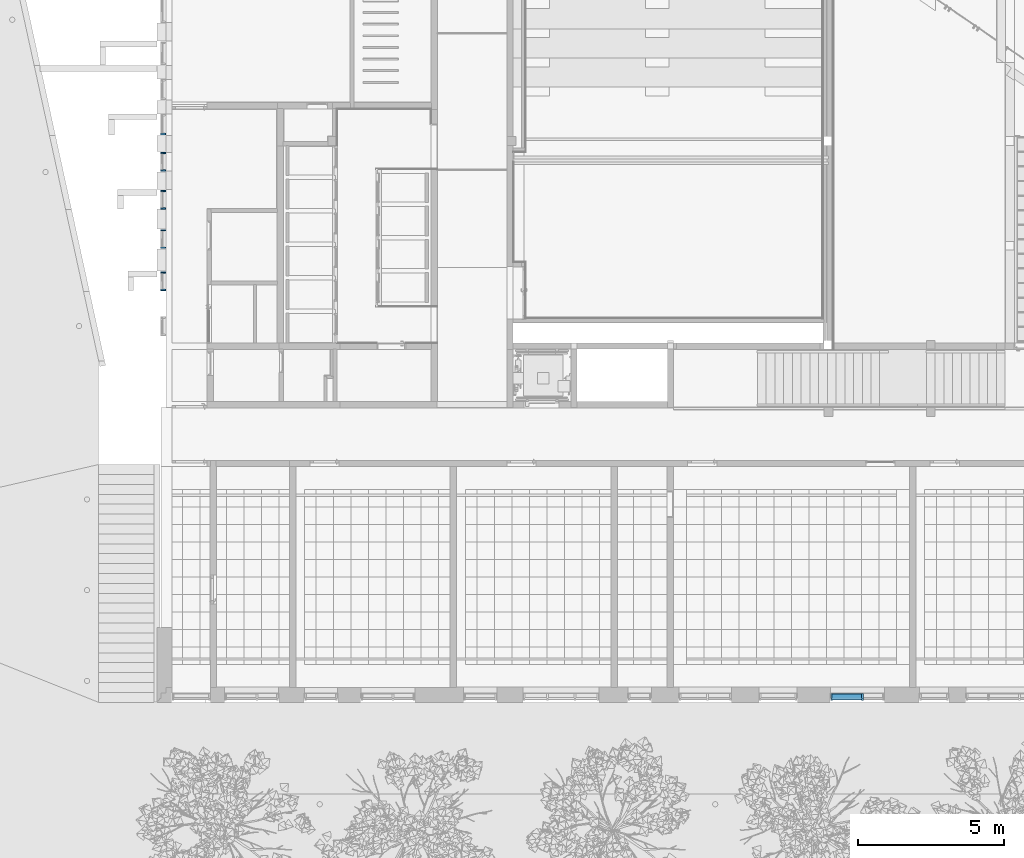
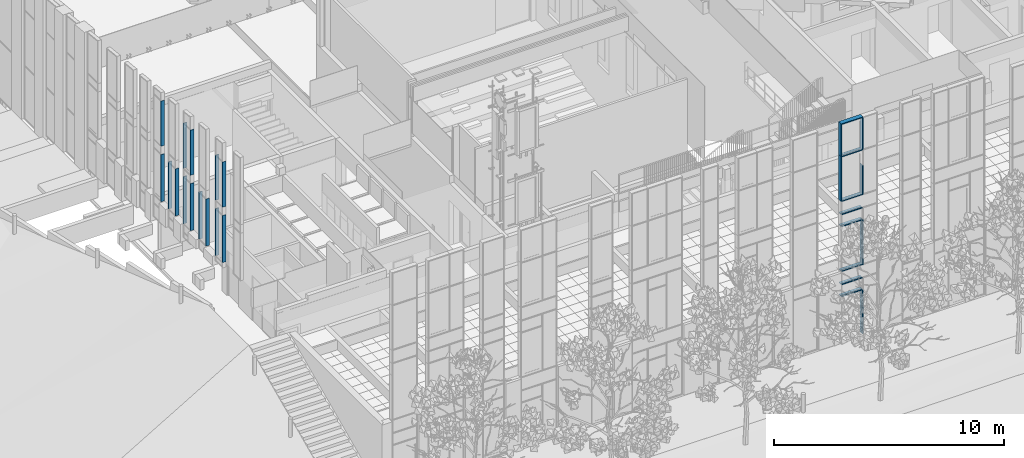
# One storey, part 5 of 246: 28 members, 6 elements without a shape of their own.
"""IFC2X3 building model written with IfcOpenShell, lengths in millimetres."""

from ifc_helpers import new_model, entity, si_unit, converted_unit, derived_unit, money_unit, direction, frame, origin_with_axes, place, context, subcontext, project, spatial, faceted_brep, source, transform, mapped, material, type_object, element, aggregate, save


model = new_model("IFC2X3")

# Units and contexts
model_context = context("Model", 3, precision=0.01, world=origin_with_axes(), true_north=direction((0.0, 1.0)))
body_context = subcontext(model_context, "Body", "Model", "MODEL_VIEW")
ifc_project = project(units=[si_unit("LENGTHUNIT", "METRE", prefix="MILLI"), si_unit("AREAUNIT", "SQUARE_METRE"), si_unit("VOLUMEUNIT", "CUBIC_METRE"), converted_unit("PLANEANGLEUNIT", "DEGREE", entity("IfcPlaneAngleMeasure", 0.0174532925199), si_unit("PLANEANGLEUNIT", "RADIAN"), dimensions=[0, 0, 0, 0, 0, 0, 0]), si_unit("SOLIDANGLEUNIT", "STERADIAN"), money_unit("EUR"), converted_unit("TIMEUNIT", "Year", entity("IfcTimeMeasure", 31556926.0), si_unit("TIMEUNIT", "SECOND"), dimensions=[0, 0, 1, 0, 0, 0, 0]), si_unit("MASSUNIT", "GRAM", prefix="KILO"), si_unit("THERMODYNAMICTEMPERATUREUNIT", "DEGREE_CELSIUS"), si_unit("LUMINOUSINTENSITYUNIT", "LUMEN"), si_unit("ENERGYUNIT", "JOULE", prefix="MEGA"), derived_unit("THERMALCONDUCTANCEUNIT", [(si_unit("POWERUNIT", "WATT"), 1), (si_unit("LENGTHUNIT", "METRE"), -1), (si_unit("THERMODYNAMICTEMPERATUREUNIT", "KELVIN"), -1)]), derived_unit("SPECIFICHEATCAPACITYUNIT", [(si_unit("ENERGYUNIT", "JOULE"), 1), (si_unit("MASSUNIT", "GRAM", prefix="KILO"), -1), (si_unit("THERMODYNAMICTEMPERATUREUNIT", "KELVIN"), -1)]), derived_unit("MASSDENSITYUNIT", [(si_unit("MASSUNIT", "GRAM", prefix="KILO"), 1), (si_unit("VOLUMEUNIT", "CUBIC_METRE"), -1)])], contexts=[model_context])

# Site, building, storey
site_placement = place(None, origin_with_axes())
site = spatial("IfcSite", under=ifc_project, at=site_placement, Name="L.Koidula tn 11b", CompositionType="ELEMENT")
building_placement = place(site_placement, origin_with_axes())
building = spatial("IfcBuilding", under=site, at=building_placement, Name="Rakvere Riigigümnaasium", CompositionType="ELEMENT")
storey_placement = place(building_placement, origin_with_axes())
storey = spatial("IfcBuildingStorey", under=building, at=storey_placement, Name="1.korrus 0,00", CompositionType="ELEMENT", Elevation=0.0)

# Curtain wall, members
curtain_wall_type = type_object("IfcCurtainWallType", Name="Curtain Wall Type", PredefinedType="NOTDEFINED")
curtain_wall_1_placement = place(storey_placement, frame((59064.0000846, 5111.45334637, -8.09717250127e-06), z_axis=(0.0, 0.0, 1.0), x_axis=(1.0, 0.0, 0.0)))
curtain_wall_1 = element("IfcCurtainWall", 1, at=curtain_wall_1_placement, inside=storey, type_object=curtain_wall_type, Name="KLF-05-2A")
ifc_material = material(Name="Alumiiniumprofiil (RAL 7021)")
member_type_1 = type_object("IfcMemberType", Name="Boundary Frame 50 x 222", PredefinedType="MULLION")
shared_shape_1 = source(origin_with_axes(), body_context, "Body", "Brep", [
    faceted_brep([(-37.0, -32.5, 2375.0), (-50.0, -32.5, 2375.0), (-50.0, -169.0, 2375.0), (0.0, -169.0, 2375.0), (0.0, 53.0, 2375.0), (-50.0, 53.0, 2375.0), (-50.0, 32.5, 2375.0), (-37.0, 32.5, 2375.0), (-37.0, -32.5, 0.0), (-50.0, -32.5, 0.0), (-50.0, -169.0, 0.0), (0.0, -169.0, 0.0), (0.0, 53.0, 0.0), (-50.0, 53.0, 0.0), (-50.0, 32.5, 0.0), (-37.0, 32.5, 0.0)], [[[0, 1, 2, 3, 4, 5, 6, 7]], [[0, 8, 9, 1]], [[9, 10, 2, 1]], [[10, 11, 3, 2]], [[11, 12, 4, 3]], [[12, 13, 5, 4]], [[6, 5, 13, 14]], [[14, 15, 7, 6]], [[7, 15, 8, 0]], [[8, 15, 14, 13, 12, 11, 10, 9]]]),
])
member_1_placement = place(curtain_wall_1_placement, frame((-954.000087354, 0.0, 7465.0), z_axis=(0.0, 0.0, 1.0), x_axis=(-1.0, 0.0, 0.0)))
member_1 = element("IfcMember", 2, at=member_1_placement, type_object=member_type_1, material=ifc_material, Name="KLF-05-3A-Profiilid", ObjectType="MULLION", context=body_context, shape_type="MappedRepresentation", body=[
    mapped(shared_shape_1, transform((0.0, 0.0, 0.0))),
])
member_type_2 = type_object("IfcMemberType", Name="50 x 208", PredefinedType="MULLION")
shared_shape_2 = source(origin_with_axes(), body_context, "Body", "Brep", [
    faceted_brep([(-12.0, -27.0, 1050.00011426), (-25.0, -27.0, 1050.00011426), (-25.0, -160.0, 1050.00011426), (25.0, -160.0, 1050.00011426), (25.0, -27.0, 1050.00011426), (12.0, -27.0, 1050.00011426), (12.0, 27.0, 1050.00011426), (25.0, 27.0, 1050.00011426), (25.0, 48.0, 1050.00011426), (-25.0, 48.0, 1050.00011426), (-25.0, 27.0, 1050.00011426), (-12.0, 27.0, 1050.00011426), (-12.0, -27.0, 0.0), (-25.0, -27.0, 0.0), (-25.0, -160.0, 0.0), (25.0, -160.0, 0.0), (25.0, -27.0, 0.0), (12.0, -27.0, 0.0), (12.0, 27.0, 0.0), (25.0, 27.0, 0.0), (25.0, 48.0, 0.0), (-25.0, 48.0, 0.0), (-25.0, 27.0, 0.0), (-12.0, 27.0, 0.0)], [[[0, 1, 2, 3, 4, 5, 6, 7, 8, 9, 10, 11]], [[1, 0, 12, 13]], [[1, 13, 14, 2]], [[3, 2, 14, 15]], [[4, 3, 15, 16]], [[4, 16, 17, 5]], [[5, 17, 18, 6]], [[7, 6, 18, 19]], [[19, 20, 8, 7]], [[9, 8, 20, 21]], [[22, 10, 9, 21]], [[11, 10, 22, 23]], [[0, 11, 23, 12]], [[23, 22, 21, 20, 19, 18, 17, 16, 15, 14, 13, 12]]]),
])
member_2_placement = place(curtain_wall_1_placement, frame((-934.000201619, 0.0, 2400.0), z_axis=(1.0, 0.0, 0.0), x_axis=(0.0, 0.0, 1.0)))
member_2 = element("IfcMember", 3, at=member_2_placement, type_object=member_type_2, material=ifc_material, Name="KLF-40", ObjectType="MULLION", context=body_context, shape_type="MappedRepresentation", body=[
    mapped(shared_shape_2, transform((0.0, 0.0, 0.0))),
])
member_3_placement = place(curtain_wall_1_placement, frame((-934.000201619, 0.0, 3040.0), z_axis=(1.0, 0.0, 0.0), x_axis=(0.0, 0.0, 1.0)))
member_3 = element("IfcMember", 4, at=member_3_placement, type_object=member_type_2, material=ifc_material, Name="KLF-82", ObjectType="MULLION", context=body_context, shape_type="MappedRepresentation", body=[
    mapped(shared_shape_2, transform((0.0, 0.0, 0.0))),
])
member_4_placement = place(curtain_wall_1_placement, frame((-934.000201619, 0.0, 3745.0), z_axis=(1.0, 0.0, 0.0), x_axis=(0.0, 0.0, 1.0)))
member_4 = element("IfcMember", 5, at=member_4_placement, type_object=member_type_2, material=ifc_material, Name="KLF-84", ObjectType="MULLION", context=body_context, shape_type="MappedRepresentation", body=[
    mapped(shared_shape_2, transform((0.0, 0.0, 0.0))),
])
member_5_placement = place(curtain_wall_1_placement, frame((-934.000201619, 0.0, 6120.0), z_axis=(1.0, 0.0, 0.0), x_axis=(0.0, 0.0, 1.0)))
member_5 = element("IfcMember", 6, at=member_5_placement, type_object=member_type_2, material=ifc_material, Name="KLF-15", ObjectType="MULLION", context=body_context, shape_type="MappedRepresentation", body=[
    mapped(shared_shape_2, transform((0.0, 0.0, 0.0))),
])
member_6_placement = place(curtain_wall_1_placement, frame((-934.000201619, 0.0, 6760.0), z_axis=(1.0, 0.0, 0.0), x_axis=(0.0, 0.0, 1.0)))
member_6 = element("IfcMember", 7, at=member_6_placement, type_object=member_type_2, material=ifc_material, Name="KLF-17", ObjectType="MULLION", context=body_context, shape_type="MappedRepresentation", body=[
    mapped(shared_shape_2, transform((0.0, 0.0, 0.0))),
])
member_7_placement = place(curtain_wall_1_placement, frame((-934.000201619, 0.0, 7465.0), z_axis=(1.0, 0.0, 0.0), x_axis=(0.0, 0.0, 1.0)))
member_7 = element("IfcMember", 8, at=member_7_placement, type_object=member_type_2, material=ifc_material, Name="KLF-50", ObjectType="MULLION", context=body_context, shape_type="MappedRepresentation", body=[
    mapped(shared_shape_2, transform((0.0, 0.0, 0.0))),
])
member_type_3 = type_object("IfcMemberType", Name="Mullion Frame 50 x 222", PredefinedType="MULLION")
shared_shape_3 = source(origin_with_axes(), body_context, "Body", "Brep", [
    faceted_brep([(-12.0, -32.5, 1699.99983191), (-25.0, -32.5, 1699.99983191), (-25.0, -169.0, 1699.99983191), (25.0, -169.0, 1699.99983191), (25.0, -32.5, 1699.99983191), (12.0, -32.5, 1699.99983191), (12.0, 32.5, 1699.99983191), (25.0, 32.5, 1699.99983191), (25.0, 53.0, 1699.99983191), (-25.0, 53.0, 1699.99983191), (-25.0, 32.5, 1699.99983191), (-12.0, 32.5, 1699.99983191), (-12.0, -32.5, 0.0), (-25.0, -32.5, 0.0), (-25.0, -169.0, 0.0), (25.0, -169.0, 0.0), (25.0, -32.5, 0.0), (12.0, -32.5, 0.0), (12.0, 32.5, 0.0), (25.0, 32.5, 0.0), (25.0, 53.0, 0.0), (-25.0, 53.0, 0.0), (-25.0, 32.5, 0.0), (-12.0, 32.5, 0.0)], [[[0, 1, 2, 3, 4, 5, 6, 7, 8, 9, 10, 11]], [[1, 0, 12, 13]], [[1, 13, 14, 2]], [[3, 2, 14, 15]], [[4, 3, 15, 16]], [[4, 16, 17, 5]], [[5, 17, 18, 6]], [[7, 6, 18, 19]], [[19, 20, 8, 7]], [[9, 8, 20, 21]], [[22, 10, 9, 21]], [[11, 10, 22, 23]], [[0, 11, 23, 12]], [[23, 22, 21, 20, 19, 18, 17, 16, 15, 14, 13, 12]]]),
])
member_8_placement = place(curtain_wall_1_placement, frame((140.999912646, 0.0, 9840.0), z_axis=(0.0, 0.0, 1.0), x_axis=(-1.0, 0.0, 0.0)))
member_8 = element("IfcMember", 9, at=member_8_placement, type_object=member_type_3, material=ifc_material, Name="KLF-05-2A-Profiilid", ObjectType="MULLION", context=body_context, shape_type="MappedRepresentation", body=[
    mapped(shared_shape_3, transform((0.0, 0.0, 0.0))),
])

curtain_wall_2_placement = place(storey_placement, frame((35156.0871538, 22235.4555038, 3003.0), z_axis=(0.0, 0.0, 1.0), x_axis=(1.0, 0.0, 0.0)))
curtain_wall_2 = element("IfcCurtainWall", 10, at=curtain_wall_2_placement, inside=storey, type_object=curtain_wall_type, Name="KLF-04-07")
member_type_4 = type_object("IfcMemberType", Name="Boundary Frame 50 x 170", PredefinedType="MULLION")
shared_shape_4 = source(origin_with_axes(), body_context, "Body", "Brep", [
    faceted_brep([(37.0, -26.0, 2500.00000122), (37.0, 26.0, 2500.00000122), (50.0, 26.0, 2500.00000122), (50.0, 46.0, 2500.00000122), (0.0, 46.0, 2500.00000122), (0.0, -124.0, 2500.00000122), (50.0, -124.0, 2500.00000122), (50.0, -26.0, 2500.00000122), (37.0, -26.0, 0.0), (37.0, 26.0, 0.0), (50.0, 26.0, 0.0), (50.0, 46.0, 0.0), (0.0, 46.0, 0.0), (0.0, -124.0, 0.0), (50.0, -124.0, 0.0), (50.0, -26.0, 0.0)], [[[0, 1, 2, 3, 4, 5, 6, 7]], [[1, 0, 8, 9]], [[10, 2, 1, 9]], [[2, 10, 11, 3]], [[12, 4, 3, 11]], [[13, 5, 4, 12]], [[14, 6, 5, 13]], [[15, 7, 6, 14]], [[0, 7, 15, 8]], [[8, 15, 14, 13, 12, 11, 10, 9]]]),
])
member_9_placement = place(curtain_wall_2_placement, frame((0.0, 324.999942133, 3242.00007113), z_axis=(0.0, 4.1864745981e-08, -1.0), x_axis=(0.0, -1.0, -4.1864745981e-08)))
member_9 = element("IfcMember", 11, at=member_9_placement, type_object=member_type_4, material=ifc_material, Name="KLF-04-35-Profiilid", ObjectType="MULLION", context=body_context, shape_type="MappedRepresentation", body=[
    mapped(shared_shape_4, transform((0.0, 0.0, 0.0))),
])
member_10_placement = place(curtain_wall_2_placement, frame((0.0, -325.000024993, 742.00007113), z_axis=(0.0, 0.0, 1.0), x_axis=(0.0, 1.0, 0.0)))
member_10 = element("IfcMember", 12, at=member_10_placement, type_object=member_type_4, material=ifc_material, Name="KLF-04-27-Profiilid", ObjectType="MULLION", context=body_context, shape_type="MappedRepresentation", body=[
    mapped(shared_shape_4, transform((0.0, 0.0, 0.0))),
])

curtain_wall_3_placement = place(storey_placement, frame((35156.0871538, 20885.4555022, 3234.99992887), z_axis=(0.0, 0.0, 1.0), x_axis=(1.0, 0.0, 0.0)))
curtain_wall_3 = element("IfcCurtainWall", 13, at=curtain_wall_3_placement, inside=storey, type_object=curtain_wall_type, Name="KLF-04-08")
member_11_placement = place(curtain_wall_3_placement, frame((0.0, 324.999978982, 3010.00007113), z_axis=(0.0, 0.0, -1.0), x_axis=(0.0, -1.0, 0.0)))
member_11 = element("IfcMember", 14, at=member_11_placement, type_object=member_type_4, material=ifc_material, Name="KLF-04-58-Profiilid", ObjectType="MULLION", context=body_context, shape_type="MappedRepresentation", body=[
    mapped(shared_shape_4, transform((0.0, 0.0, 0.0))),
])
member_12_placement = place(curtain_wall_3_placement, frame((0.0, -325.000001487, 510.00007113), z_axis=(0.0, 0.0, 1.0), x_axis=(0.0, 1.0, 0.0)))
member_12 = element("IfcMember", 15, at=member_12_placement, type_object=member_type_4, material=ifc_material, Name="KLF-04-52-Profiilid", ObjectType="MULLION", context=body_context, shape_type="MappedRepresentation", body=[
    mapped(shared_shape_4, transform((0.0, 0.0, 0.0))),
])
aggregate(curtain_wall_3, [member_11, member_12])

curtain_wall_4_placement = place(storey_placement, frame((35156.0871538, 19435.4554934, 3468.0), z_axis=(0.0, 0.0, 1.0), x_axis=(1.0, 0.0, 0.0)))
curtain_wall_4 = element("IfcCurtainWall", 16, at=curtain_wall_4_placement, inside=storey, type_object=curtain_wall_type, Name="KLF-04-09")
member_13_placement = place(curtain_wall_4_placement, frame((0.0, 325.0000746, 2777.00007113), z_axis=(0.0, 0.0, -1.0), x_axis=(0.0, -1.0, 0.0)))
member_13 = element("IfcMember", 17, at=member_13_placement, type_object=member_type_4, material=ifc_material, Name="KLF-04-08-Profiilid", ObjectType="MULLION", context=body_context, shape_type="MappedRepresentation", body=[
    mapped(shared_shape_4, transform((0.0, 0.0, 0.0))),
])
member_14_placement = place(curtain_wall_4_placement, frame((0.0, -325.000027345, 277.00007113), z_axis=(0.0, 0.0, 1.0), x_axis=(0.0, 1.0, 0.0)))
member_14 = element("IfcMember", 18, at=member_14_placement, type_object=member_type_4, material=ifc_material, Name="KLF-04-00-Profiilid", ObjectType="MULLION", context=body_context, shape_type="MappedRepresentation", body=[
    mapped(shared_shape_4, transform((0.0, 0.0, 0.0))),
])

# Curtain wall, member
curtain_wall_5_placement = place(storey_placement, frame((35156.0871538, 24810.4554726, 2540.0), z_axis=(0.0, 0.0, 1.0), x_axis=(1.0, 0.0, 0.0)))
curtain_wall_5 = element("IfcCurtainWall", 19, at=curtain_wall_5_placement, inside=storey, type_object=curtain_wall_type, Name="KLF-04-05")
member_15_placement = place(curtain_wall_5_placement, frame((0.0, -350.000000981, 1205.00005204), z_axis=(0.0, 0.0, 1.0), x_axis=(0.0, 1.0, 0.0)))
member_15 = element("IfcMember", 20, at=member_15_placement, type_object=member_type_4, material=ifc_material, Name="KLF-04-52-Profiilid", ObjectType="MULLION", context=body_context, shape_type="MappedRepresentation", body=[
    mapped(shared_shape_4, transform((0.0, 0.0, 0.0))),
])

# Curtain wall, members
curtain_wall_6_placement = place(storey_placement, frame((35156.0871538, 23535.4555553, 2770.0), z_axis=(0.0, 0.0, 1.0), x_axis=(1.0, 0.0, 0.0)))
curtain_wall_6 = element("IfcCurtainWall", 21, at=curtain_wall_6_placement, inside=storey, type_object=curtain_wall_type, Name="KLF-04-06")
member_16_placement = place(curtain_wall_6_placement, frame((0.0, 324.999949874, 3475.00005204), z_axis=(0.0, 0.0, -1.0), x_axis=(0.0, -1.0, 0.0)))
member_16 = element("IfcMember", 22, at=member_16_placement, type_object=member_type_4, material=ifc_material, Name="KLF-04-53-Profiilid", ObjectType="MULLION", context=body_context, shape_type="MappedRepresentation", body=[
    mapped(shared_shape_4, transform((0.0, 0.0, 0.0))),
])
member_17_placement = place(curtain_wall_6_placement, frame((0.0, -324.999949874, 975.00005204), z_axis=(0.0, 0.0, 1.0), x_axis=(0.0, 1.0, 0.0)))
member_17 = element("IfcMember", 23, at=member_17_placement, type_object=member_type_4, material=ifc_material, Name="KLF-04-47-Profiilid", ObjectType="MULLION", context=body_context, shape_type="MappedRepresentation", body=[
    mapped(shared_shape_4, transform((0.0, 0.0, 0.0))),
])
aggregate(curtain_wall_6, [member_16, member_17])

# Member
shared_shape_5 = source(origin_with_axes(), body_context, "Body", "Brep", [
    faceted_brep([(-37.0, -32.5, 1712.99983191), (-50.0, -32.5, 1699.99983191), (-50.0, -169.0, 1699.99983191), (0.0, -169.0, 1749.99983191), (0.0, 53.0, 1749.99983191), (-50.0, 53.0, 1699.99983191), (-50.0, 32.5, 1699.99983191), (-37.0, 32.5, 1712.99983191), (-37.0, -32.5, 0.0), (-50.0, -32.5, 0.0), (-50.0, -169.0, 0.0), (0.0, -169.0, 0.0), (0.0, 53.0, 0.0), (-50.0, 53.0, 0.0), (-50.0, 32.5, 0.0), (-37.0, 32.5, 0.0)], [[[0, 1, 2, 3, 4, 5, 6, 7]], [[0, 8, 9, 1]], [[9, 10, 2, 1]], [[10, 11, 3, 2]], [[11, 12, 4, 3]], [[12, 13, 5, 4]], [[6, 5, 13, 14]], [[14, 15, 7, 6]], [[7, 15, 8, 0]], [[8, 15, 14, 13, 12, 11, 10, 9]]]),
])
member_18_placement = place(curtain_wall_1_placement, frame((-954.000087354, 0.0, 9840.0), z_axis=(0.0, 0.0, 1.0), x_axis=(-1.0, 0.0, 0.0)))
member_18 = element("IfcMember", 24, at=member_18_placement, type_object=member_type_1, material=ifc_material, Name="KLF-05-2A-Profiilid", ObjectType="MULLION", context=body_context, shape_type="MappedRepresentation", body=[
    mapped(shared_shape_5, transform((0.0, 0.0, 0.0))),
])

shared_shape_6 = source(origin_with_axes(), body_context, "Body", "Brep", [
    faceted_brep([(-12.0, -27.0, 2400.00026018), (-25.0, -27.0, 2400.00026018), (-25.0, -160.0, 2400.00026018), (25.0, -160.0, 2400.00026018), (25.0, -27.0, 2400.00026018), (12.0, -27.0, 2400.00026018), (12.0, 27.0, 2400.00026018), (25.0, 27.0, 2400.00026018), (25.0, 48.0, 2400.00026018), (-25.0, 48.0, 2400.00026018), (-25.0, 27.0, 2400.00026018), (-12.0, 27.0, 2400.00026018), (-12.0, -27.0, 50.0), (-25.0, -27.0, 50.0), (-25.0, -160.0, 50.0), (25.0, -160.0, 50.0), (25.0, -27.0, 50.0), (12.0, -27.0, 50.0), (12.0, 27.0, 50.0), (25.0, 27.0, 50.0), (25.0, 48.0, 50.0), (-25.0, 48.0, 50.0), (-25.0, 27.0, 50.0), (-12.0, 27.0, 50.0)], [[[0, 1, 2, 3, 4, 5, 6, 7, 8, 9, 10, 11]], [[1, 0, 12, 13]], [[1, 13, 14, 2]], [[2, 14, 15, 3]], [[4, 3, 15, 16]], [[4, 16, 17, 5]], [[5, 17, 18, 6]], [[7, 6, 18, 19]], [[19, 20, 8, 7]], [[8, 20, 21, 9]], [[22, 10, 9, 21]], [[11, 10, 22, 23]], [[0, 11, 23, 12]], [[23, 22, 21, 20, 19, 18, 17, 16, 15, 14, 13, 12]]]),
])
member_19_placement = place(curtain_wall_1_placement, frame((140.999912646, 0.0, 0.0), z_axis=(0.0, 0.0, 1.0), x_axis=(-1.0, 0.0, 0.0)))
member_19 = element("IfcMember", 25, at=member_19_placement, type_object=member_type_2, material=ifc_material, Name="KLF-24", ObjectType="MULLION", context=body_context, shape_type="MappedRepresentation", body=[
    mapped(shared_shape_6, transform((0.0, 0.0, 0.0))),
])

shared_shape_7 = source(origin_with_axes(), body_context, "Body", "Brep", [
    faceted_brep([(37.0, -26.0, 2400.0), (37.0, 26.0, 2400.0), (50.0, 26.0, 2400.0), (50.0, 46.0, 2400.0), (0.0, 46.0, 2400.0), (0.0, -124.0, 2400.0), (50.0, -124.0, 2400.0), (50.0, -26.0, 2400.0), (37.0, -26.0, 0.0), (37.0, 26.0, 0.0), (50.0, 26.0, 0.0), (50.0, 46.0, 0.0), (0.0, 46.0, 0.0), (0.0, -124.0, 0.0), (50.0, -124.0, 0.0), (50.0, -26.0, 0.0)], [[[0, 1, 2, 3, 4, 5, 6, 7]], [[1, 0, 8, 9]], [[10, 2, 1, 9]], [[2, 10, 11, 3]], [[12, 4, 3, 11]], [[13, 5, 4, 12]], [[14, 6, 5, 13]], [[15, 7, 6, 14]], [[0, 7, 15, 8]], [[8, 15, 14, 13, 12, 11, 10, 9]]]),
])
member_20_placement = place(curtain_wall_2_placement, frame((0.0, 324.999942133, 6087.00007113), z_axis=(0.0, 0.0, -1.0), x_axis=(0.0, -1.0, 0.0)))
member_20 = element("IfcMember", 26, at=member_20_placement, type_object=member_type_4, material=ifc_material, Name="KLF-04-33-Profiilid", ObjectType="MULLION", context=body_context, shape_type="MappedRepresentation", body=[
    mapped(shared_shape_7, transform((0.0, 0.0, 0.0))),
])

member_21_placement = place(curtain_wall_2_placement, frame((0.0, -324.999923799, 3687.00007113), z_axis=(0.0, 1.70199025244e-08, 1.0), x_axis=(0.0, 1.0, -1.70199025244e-08)))
member_21 = element("IfcMember", 27, at=member_21_placement, type_object=member_type_4, material=ifc_material, Name="KLF-04-29-Profiilid", ObjectType="MULLION", context=body_context, shape_type="MappedRepresentation", body=[
    mapped(shared_shape_7, transform((0.0, 0.0, 0.0))),
])

aggregate(curtain_wall_2, [member_9, member_20, member_21, member_10])

member_22_placement = place(curtain_wall_4_placement, frame((0.0, 325.0000746, 5622.00007113), z_axis=(0.0, 0.0, -1.0), x_axis=(0.0, -1.0, 0.0)))
member_22 = element("IfcMember", 28, at=member_22_placement, type_object=member_type_4, material=ifc_material, Name="KLF-04-06-Profiilid", ObjectType="MULLION", context=body_context, shape_type="MappedRepresentation", body=[
    mapped(shared_shape_7, transform((0.0, 0.0, 0.0))),
])

member_23_placement = place(curtain_wall_4_placement, frame((0.0, -325.000027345, 3222.00007113), z_axis=(0.0, -8.0752693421e-09, 1.0), x_axis=(0.0, 1.0, 8.0752693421e-09)))
member_23 = element("IfcMember", 29, at=member_23_placement, type_object=member_type_4, material=ifc_material, Name="KLF-04-02-Profiilid", ObjectType="MULLION", context=body_context, shape_type="MappedRepresentation", body=[
    mapped(shared_shape_7, transform((0.0, 0.0, 0.0))),
])

aggregate(curtain_wall_4, [member_13, member_22, member_23, member_14])

member_24_placement = place(curtain_wall_5_placement, frame((0.0, -350.000000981, 4150.00005204), z_axis=(0.0, 7.25929538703e-09, 1.0), x_axis=(0.0, 1.0, -7.25929538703e-09)))
member_24 = element("IfcMember", 30, at=member_24_placement, type_object=member_type_4, material=ifc_material, Name="KLF-04-54-Profiilid", ObjectType="MULLION", context=body_context, shape_type="MappedRepresentation", body=[
    mapped(shared_shape_7, transform((0.0, 0.0, 0.0))),
])

aggregate(curtain_wall_5, [member_24, member_15])

shared_shape_8 = source(origin_with_axes(), body_context, "Body", "Brep", [
    faceted_brep([(-12.0, -27.0, 1535.0), (-25.0, -27.0, 1535.0), (-25.0, -160.0, 1535.0), (25.0, -160.0, 1535.0), (25.0, -27.0, 1535.0), (12.0, -27.0, 1535.0), (12.0, 27.0, 1535.0), (25.0, 27.0, 1535.0), (25.0, 48.0, 1535.0), (-25.0, 48.0, 1535.0), (-25.0, 27.0, 1535.0), (-12.0, 27.0, 1535.0), (-12.0, -27.0, -25.0), (-25.0, -27.0, -25.0), (-25.0, -160.0, -25.0), (25.0, -160.0, -25.0), (25.0, -27.0, -25.0), (12.0, -27.0, -25.0), (12.0, 27.0, -25.0), (25.0, 27.0, -25.0), (25.0, 48.0, -25.0), (-25.0, 48.0, -25.0), (-25.0, 27.0, -25.0), (-12.0, 27.0, -25.0)], [[[0, 1, 2, 3, 4, 5, 6, 7, 8, 9, 10, 11]], [[1, 0, 12, 13]], [[1, 13, 14, 2]], [[3, 2, 14, 15]], [[4, 3, 15, 16]], [[4, 16, 17, 5]], [[5, 17, 18, 6]], [[7, 6, 18, 19]], [[19, 20, 8, 7]], [[9, 8, 20, 21]], [[22, 10, 9, 21]], [[11, 10, 22, 23]], [[0, 11, 23, 12]], [[23, 22, 21, 20, 19, 18, 17, 16, 15, 14, 13, 12]]]),
])
member_25_placement = place(curtain_wall_1_placement, frame((140.999912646, 0.0, 7465.0), z_axis=(0.0, 0.0, 1.0), x_axis=(-1.0, 0.0, 0.0)))
member_25 = element("IfcMember", 31, at=member_25_placement, type_object=member_type_2, material=ifc_material, Name="KLF-25", ObjectType="MULLION", context=body_context, shape_type="MappedRepresentation", body=[
    mapped(shared_shape_8, transform((0.0, 0.0, 0.0))),
])

member_type_5 = type_object("IfcMemberType", Name="50 x 222", PredefinedType="MULLION")
shared_shape_9 = source(origin_with_axes(), body_context, "Body", "Brep", [
    faceted_brep([(-12.0, -27.0, 2375.0), (-25.0, -27.0, 2375.0), (-25.0, -169.0, 2375.0), (25.0, -169.0, 2375.0), (25.0, -27.0, 2375.0), (12.0, -27.0, 2375.0), (12.0, 27.0, 2375.0), (25.0, 27.0, 2375.0), (25.0, 53.0, 2375.0), (-25.0, 53.0, 2375.0), (-25.0, 27.0, 2375.0), (-12.0, 27.0, 2375.0), (-12.0, -27.0, -25.0), (-25.0, -27.0, -25.0), (-25.0, -169.0, -25.0), (25.0, -169.0, -25.0), (25.0, -27.0, -25.0), (12.0, -27.0, -25.0), (12.0, 27.0, -25.0), (25.0, 27.0, -25.0), (25.0, 53.0, -25.0), (-25.0, 53.0, -25.0), (-25.0, 27.0, -25.0), (-12.0, 27.0, -25.0)], [[[0, 1, 2, 3, 4, 5, 6, 7, 8, 9, 10, 11]], [[1, 0, 12, 13]], [[1, 13, 14, 2]], [[3, 2, 14, 15]], [[4, 3, 15, 16]], [[4, 16, 17, 5]], [[5, 17, 18, 6]], [[7, 6, 18, 19]], [[19, 20, 8, 7]], [[9, 8, 20, 21]], [[22, 10, 9, 21]], [[11, 10, 22, 23]], [[0, 11, 23, 12]], [[23, 22, 21, 20, 19, 18, 17, 16, 15, 14, 13, 12]]]),
])
member_26_placement = place(curtain_wall_1_placement, frame((140.999912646, 0.0, 3745.0), z_axis=(0.0, 0.0, 1.0), x_axis=(-1.0, 0.0, 0.0)))
member_26 = element("IfcMember", 32, at=member_26_placement, type_object=member_type_5, material=ifc_material, Name="KLF-67", ObjectType="MULLION", context=body_context, shape_type="MappedRepresentation", body=[
    mapped(shared_shape_9, transform((0.0, 0.0, 0.0))),
])

member_type_6 = type_object("IfcMemberType", Name="Transom Frame 50 x 222", PredefinedType="MULLION")
shared_shape_10 = source(origin_with_axes(), body_context, "Body", "Brep", [
    faceted_brep([(-12.0, -32.5, 1070.0), (-25.0, -32.5, 1070.0), (-25.0, -169.0, 1070.0), (25.0, -169.0, 1070.0), (25.0, -32.5, 1070.0), (12.0, -32.5, 1070.0), (12.0, 32.5, 1070.0), (25.0, 32.5, 1070.0), (25.0, 53.0, 1070.0), (-25.0, 53.0, 1070.0), (-25.0, 32.5, 1070.0), (-12.0, 32.5, 1070.0), (-12.0, -32.5, 50.0), (-25.0, -32.5, 50.0), (-25.0, -169.0, 50.0), (25.0, -169.0, 50.0), (25.0, -32.5, 50.0), (12.0, -32.5, 50.0), (12.0, 32.5, 50.0), (25.0, 32.5, 50.0), (25.0, 53.0, 50.0), (-25.0, 53.0, 50.0), (-25.0, 32.5, 50.0), (-12.0, 32.5, 50.0)], [[[0, 1, 2, 3, 4, 5, 6, 7, 8, 9, 10, 11]], [[1, 0, 12, 13]], [[1, 13, 14, 2]], [[2, 14, 15, 3]], [[4, 3, 15, 16]], [[4, 16, 17, 5]], [[5, 17, 18, 6]], [[7, 6, 18, 19]], [[19, 20, 8, 7]], [[8, 20, 21, 9]], [[22, 10, 9, 21]], [[11, 10, 22, 23]], [[0, 11, 23, 12]], [[23, 22, 21, 20, 19, 18, 17, 16, 15, 14, 13, 12]]]),
])
member_27_placement = place(curtain_wall_1_placement, frame((-954.000087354, 0.0, 9840.0), z_axis=(1.0, 0.0, 0.0), x_axis=(0.0, 0.0, 1.0)))
member_27 = element("IfcMember", 33, at=member_27_placement, type_object=member_type_6, material=ifc_material, Name="KLF-05-6A-Profiilid", ObjectType="MULLION", context=body_context, shape_type="MappedRepresentation", body=[
    mapped(shared_shape_10, transform((0.0, 0.0, 0.0))),
])

shared_shape_11 = source(origin_with_axes(), body_context, "Body", "Brep", [
    faceted_brep([(37.0, -32.5, 1058.0), (37.0, 32.5, 1058.0), (50.0, 32.5, 1045.0), (50.0, 53.0, 1045.0), (0.0, 53.0, 1095.0), (0.0, -169.0, 1095.0), (50.0, -169.0, 1045.0), (50.0, -32.5, 1045.0), (37.0, -32.5, 0.0), (37.0, 32.5, 0.0), (50.0, 32.5, 0.0), (50.0, 53.0, 0.0), (0.0, 53.0, 0.0), (0.0, -169.0, 0.0), (50.0, -169.0, 0.0), (50.0, -32.5, 0.0)], [[[0, 1, 2, 3, 4, 5, 6, 7]], [[1, 0, 8, 9]], [[10, 2, 1, 9]], [[2, 10, 11, 3]], [[12, 4, 3, 11]], [[13, 5, 4, 12]], [[14, 6, 5, 13]], [[15, 7, 6, 14]], [[0, 7, 15, 8]], [[8, 15, 14, 13, 12, 11, 10, 9]]]),
])
member_28_placement = place(curtain_wall_1_placement, frame((140.999912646, 0.0, 11590.0000411), z_axis=(-1.0, 0.0, 0.0), x_axis=(0.0, 0.0, -1.0)))
member_28 = element("IfcMember", 34, at=member_28_placement, type_object=member_type_1, material=ifc_material, Name="KLF-05-1A-Profiilid", ObjectType="MULLION", context=body_context, shape_type="MappedRepresentation", body=[
    mapped(shared_shape_11, transform((0.0, 0.0, 0.0))),
])

aggregate(curtain_wall_1, [member_2, member_25, member_19, member_3, member_4, member_26, member_5, member_6, member_7, member_27, member_1, member_18, member_28, member_8])

save(model, "model.ifc")
